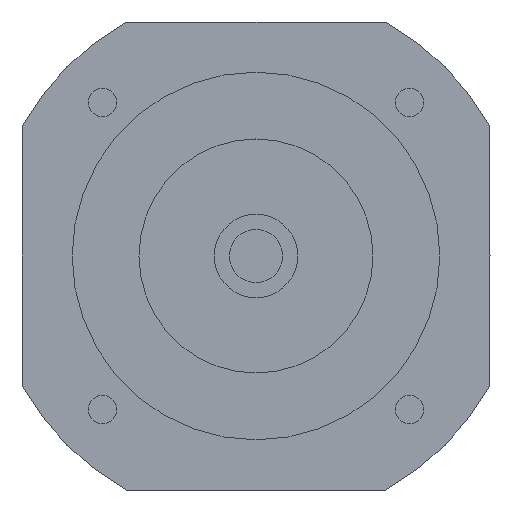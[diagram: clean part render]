
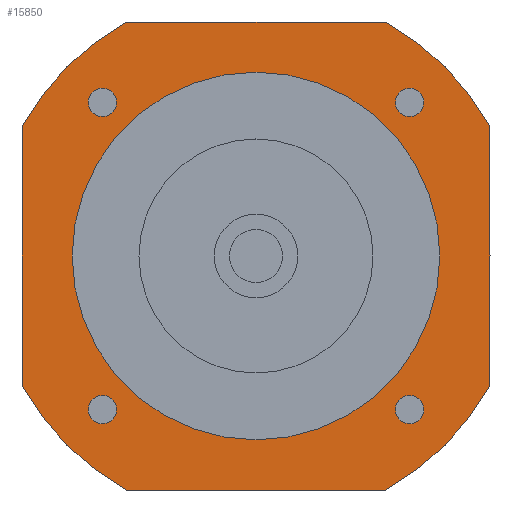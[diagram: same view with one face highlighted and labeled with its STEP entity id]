
A CAD part, left-side view. The second image highlights one B-rep face of the part: STEP entity #15850.
In plain terms, the highlighted planar face has unit normal (-1, 0, 0) as drawn and (0, 0, -1) by its records, which use the part's own axes.
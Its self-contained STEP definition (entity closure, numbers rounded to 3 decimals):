
#13040=CARTESIAN_POINT('',(-38.73,-70.,-59.7));
#13050=VERTEX_POINT('',#13040);
#13080=CARTESIAN_POINT('',(0.,0.,
-59.7));
#13090=DIRECTION('',(0.,0.,-1.));
#13100=DIRECTION('',(1.,0.,0.));
#13110=AXIS2_PLACEMENT_3D('',#13080,#13090,#13100);
#13120=CIRCLE('',#13110,80.);
#13130=CARTESIAN_POINT('',(-70.,-38.73,-59.7));
#13140=VERTEX_POINT('',#13130);
#13150=EDGE_CURVE('',#13050,#13140,#13120,.T.);
#13330=CARTESIAN_POINT('',(-70.,-70.,-59.7));
#13340=DIRECTION('',(0.,1.,0.));
#13350=VECTOR('',#13340,1000.);
#13360=LINE('',#13330,#13350);
#13370=CARTESIAN_POINT('',(-70.,38.73,-59.7));
#13380=VERTEX_POINT('',#13370);
#13390=EDGE_CURVE('',#13140,#13380,#13360,.T.);
#13600=CARTESIAN_POINT('',(70.,-38.73,-59.7));
#13610=VERTEX_POINT('',#13600);
#13640=CARTESIAN_POINT('',(0.,0.,
-59.7));
#13650=DIRECTION('',(0.,0.,-1.));
#13660=DIRECTION('',(1.,0.,0.));
#13670=AXIS2_PLACEMENT_3D('',#13640,#13650,#13660);
#13680=CIRCLE('',#13670,80.);
#13690=CARTESIAN_POINT('',(38.73,-70.,-59.7));
#13700=VERTEX_POINT('',#13690);
#13710=EDGE_CURVE('',#13610,#13700,#13680,.T.);
#13890=CARTESIAN_POINT('',(70.,-70.,-59.7));
#13900=DIRECTION('',(-1.,0.,0.));
#13910=VECTOR('',#13900,1000.);
#13920=LINE('',#13890,#13910);
#13930=EDGE_CURVE('',#13700,#13050,#13920,.T.);
#14090=CARTESIAN_POINT('',(-38.73,70.,-59.7));
#14100=VERTEX_POINT('',#14090);
#14130=CARTESIAN_POINT('',(-70.,70.,-59.7));
#14140=DIRECTION('',(1.,0.,0.));
#14150=VECTOR('',#14140,1000.);
#14160=LINE('',#14130,#14150);
#14170=CARTESIAN_POINT('',(38.73,70.,-59.7));
#14180=VERTEX_POINT('',#14170);
#14190=EDGE_CURVE('',#14100,#14180,#14160,.T.);
#14390=CARTESIAN_POINT('',(0.,0.,
-59.7));
#14400=DIRECTION('',(0.,0.,-1.));
#14410=DIRECTION('',(1.,0.,0.));
#14420=AXIS2_PLACEMENT_3D('',#14390,#14400,#14410);
#14430=CIRCLE('',#14420,80.);
#14440=EDGE_CURVE('',#13380,#14100,#14430,.T.);
#14550=CARTESIAN_POINT('',(0.,0.,
-59.7));
#14560=DIRECTION('',(0.,0.,-1.));
#14570=DIRECTION('',(1.,0.,0.));
#14580=AXIS2_PLACEMENT_3D('',#14550,#14560,#14570);
#14590=CIRCLE('',#14580,80.);
#14600=CARTESIAN_POINT('',(70.,38.73,-59.7));
#14610=VERTEX_POINT('',#14600);
#14620=EDGE_CURVE('',#14180,#14610,#14590,.T.);
#14800=CARTESIAN_POINT('',(70.,70.,-59.7));
#14810=DIRECTION('',(0.,-1.,0.));
#14820=VECTOR('',#14810,1000.);
#14830=LINE('',#14800,#14820);
#14840=EDGE_CURVE('',#14610,#13610,#14830,.T.);
#14910=CARTESIAN_POINT('',(70.,70.,-59.7));
#14920=DIRECTION('',(0.,0.,-1.));
#14930=DIRECTION('',(1.,0.,0.));
#14940=AXIS2_PLACEMENT_3D('',#14910,#14920,#14930);
#14950=PLANE('',#14940);
#14960=CARTESIAN_POINT('',(-45.962,-45.962,-59.7));
#14970=DIRECTION('',(0.,0.,-1.));
#14980=DIRECTION('',(0.,-1.,0.));
#14990=AXIS2_PLACEMENT_3D('',#14960,#14970,#14980);
#15000=CIRCLE('',#14990,4.25);
#15010=CARTESIAN_POINT('',(-45.962,-50.212,-59.7));
#15020=VERTEX_POINT('',#15010);
#15030=CARTESIAN_POINT('',(-45.962,-41.712,-59.7));
#15040=VERTEX_POINT('',#15030);
#15050=EDGE_CURVE('',#15020,#15040,#15000,.T.);
#15060=ORIENTED_EDGE('',*,*,#15050,.F.);
#15070=EDGE_CURVE('',#15040,#15020,#15000,.T.);
#15080=ORIENTED_EDGE('',*,*,#15070,.F.);
#15090=EDGE_LOOP('',(#15080,#15060));
#15100=FACE_BOUND('',#15090,.T.);
#15110=CARTESIAN_POINT('',(-45.962,45.962,-59.7));
#15120=DIRECTION('',(0.,0.,-1.));
#15130=DIRECTION('',(-1.,0.,0.));
#15140=AXIS2_PLACEMENT_3D('',#15110,#15120,#15130);
#15150=CIRCLE('',#15140,4.25);
#15160=CARTESIAN_POINT('',(-50.212,45.962,-59.7));
#15170=VERTEX_POINT('',#15160);
#15180=CARTESIAN_POINT('',(-41.712,45.962,-59.7));
#15190=VERTEX_POINT('',#15180);
#15200=EDGE_CURVE('',#15170,#15190,#15150,.T.);
#15210=ORIENTED_EDGE('',*,*,#15200,.F.);
#15220=EDGE_CURVE('',#15190,#15170,#15150,.T.);
#15230=ORIENTED_EDGE('',*,*,#15220,.F.);
#15240=EDGE_LOOP('',(#15230,#15210));
#15250=FACE_BOUND('',#15240,.T.);
#15260=CARTESIAN_POINT('',(45.962,45.962,-59.7));
#15270=DIRECTION('',(0.,0.,-1.));
#15280=DIRECTION('',(0.,1.,0.));
#15290=AXIS2_PLACEMENT_3D('',#15260,#15270,#15280);
#15300=CIRCLE('',#15290,4.25);
#15310=CARTESIAN_POINT('',(45.962,50.212,-59.7));
#15320=VERTEX_POINT('',#15310);
#15330=CARTESIAN_POINT('',(45.962,41.712,-59.7));
#15340=VERTEX_POINT('',#15330);
#15350=EDGE_CURVE('',#15320,#15340,#15300,.T.);
#15360=ORIENTED_EDGE('',*,*,#15350,.F.);
#15370=EDGE_CURVE('',#15340,#15320,#15300,.T.);
#15380=ORIENTED_EDGE('',*,*,#15370,.F.);
#15390=EDGE_LOOP('',(#15380,#15360));
#15400=FACE_BOUND('',#15390,.T.);
#15410=CARTESIAN_POINT('',(0.,0.,
-59.7));
#15420=DIRECTION('',(0.,0.,1.));
#15430=DIRECTION('',(0.,1.,0.));
#15440=AXIS2_PLACEMENT_3D('',#15410,#15420,#15430);
#15450=CIRCLE('',#15440,55.);
#15460=CARTESIAN_POINT('',(-55.,0.,-59.7));
#15470=VERTEX_POINT('',#15460);
#15480=CARTESIAN_POINT('',(55.,0.,-59.7));
#15490=VERTEX_POINT('',#15480);
#15500=EDGE_CURVE('',#15470,#15490,#15450,.T.);
#15510=ORIENTED_EDGE('',*,*,#15500,.T.);
#15520=CARTESIAN_POINT('',(0.,55.,-59.7));
#15530=VERTEX_POINT('',#15520);
#15540=EDGE_CURVE('',#15530,#15470,#15450,.T.);
#15550=ORIENTED_EDGE('',*,*,#15540,.T.);
#15560=EDGE_CURVE('',#15490,#15530,#15450,.T.);
#15570=ORIENTED_EDGE('',*,*,#15560,.T.);
#15580=EDGE_LOOP('',(#15570,#15550,#15510));
#15590=FACE_BOUND('',#15580,.T.);
#15600=ORIENTED_EDGE('',*,*,#14190,.T.);
#15610=ORIENTED_EDGE('',*,*,#14440,.T.);
#15620=ORIENTED_EDGE('',*,*,#13390,.T.);
#15630=ORIENTED_EDGE('',*,*,#13150,.T.);
#15640=ORIENTED_EDGE('',*,*,#13930,.T.);
#15650=ORIENTED_EDGE('',*,*,#13710,.T.);
#15660=ORIENTED_EDGE('',*,*,#14840,.T.);
#15670=ORIENTED_EDGE('',*,*,#14620,.T.);
#15680=EDGE_LOOP('',(#15670,#15660,#15650,#15640,#15630,#15620,#15610,
#15600));
#15690=FACE_OUTER_BOUND('',#15680,.T.);
#15700=CARTESIAN_POINT('',(45.962,-45.962,-59.7));
#15710=DIRECTION('',(0.,0.,-1.));
#15720=DIRECTION('',(1.,0.,0.));
#15730=AXIS2_PLACEMENT_3D('',#15700,#15710,#15720);
#15740=CIRCLE('',#15730,4.25);
#15750=CARTESIAN_POINT('',(50.212,-45.962,-59.7));
#15760=VERTEX_POINT('',#15750);
#15770=CARTESIAN_POINT('',(41.712,-45.962,-59.7));
#15780=VERTEX_POINT('',#15770);
#15790=EDGE_CURVE('',#15760,#15780,#15740,.T.);
#15800=ORIENTED_EDGE('',*,*,#15790,.F.);
#15810=EDGE_CURVE('',#15780,#15760,#15740,.T.);
#15820=ORIENTED_EDGE('',*,*,#15810,.F.);
#15830=EDGE_LOOP('',(#15820,#15800));
#15840=FACE_BOUND('',#15830,.T.);
#15850=ADVANCED_FACE('',(#15100,#15250,#15400,#15590,#15690,#15840),
#14950,.T.);
